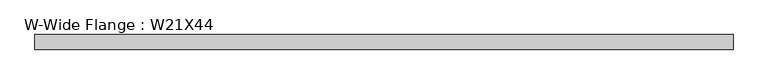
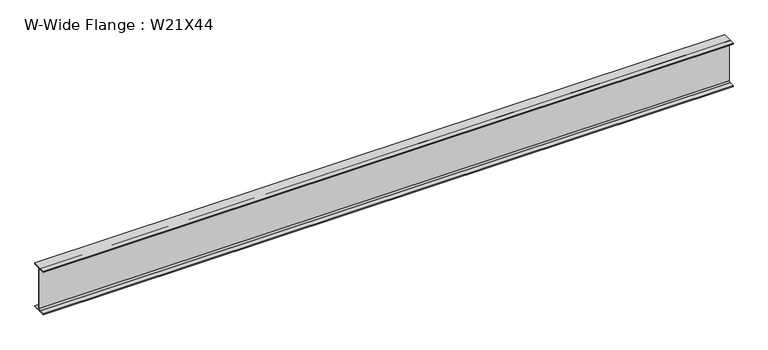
"""IFC4 building model written with IfcOpenShell, lengths in millimetres: beam geometry, W-Wide Flange : W21X44."""

from ifc_helpers import new_model, si_unit, point, frame, frame_2d, origin, place, context, project, spatial, polyline, circle_curve, trimmed, segment, composite_curve, outline, extrude, source, transform, mapped, element, save


def w_wide_flange_w21x44_dd8e647a(model_context):
    return source(origin(), model_context, "Body", "SweptSolid", [
        extrude(outline(composite_curve([segment(polyline([(82.55, -251.46), (82.55, -262.89), (-82.55, -262.89), (-82.55, -251.46), (-21.59, -251.46)]), True, "CONTINUOUS"), segment(trimmed(circle_curve(frame_2d((-21.59, -234.315)), 17.145), [point((-21.59, -251.46))], [point((-4.445, -234.315))], True, "CARTESIAN"), True, "CONTINUOUS"), segment(polyline([(-4.445, -234.315), (-4.445, 234.315)]), True, "CONTINUOUS"), segment(trimmed(circle_curve(frame_2d((-21.59, 234.315)), 17.145), [point((-4.445, 234.315))], [point((-21.59, 251.46))], True, "CARTESIAN"), True, "CONTINUOUS"), segment(polyline([(-21.59, 251.46), (-82.55, 251.46), (-82.55, 262.89), (82.55, 262.89), (82.55, 251.46), (21.59, 251.46)]), True, "CONTINUOUS"), segment(trimmed(circle_curve(frame_2d((21.59, 234.315)), 17.145), [point((21.59, 251.46))], [point((4.445, 234.315))], True, "CARTESIAN"), True, "CONTINUOUS"), segment(polyline([(4.445, 234.315), (4.445, -234.315)]), True, "CONTINUOUS"), segment(trimmed(circle_curve(frame_2d((21.59, -234.315)), 17.145), [point((4.445, -234.315))], [point((21.59, -251.46))], True, "CARTESIAN"), True, "CONTINUOUS"), segment(polyline([(21.59, -251.46), (82.55, -251.46)]), True, "CONTINUOUS")], self_intersect=False)), frame((-3902.8286345, 0.0, 0.0), z_axis=(1.0, 0.0, 0.0), x_axis=(0.0, 1.0, 0.0)), (0.0, 0.0, 1.0), 7866.3605813),
    ])


if __name__ == "__main__":
    model = new_model("IFC4")
    model_context = context("Model", 3, world=origin())
    ifc_project = project(units=[si_unit("LENGTHUNIT", "METRE", prefix="MILLI")], contexts=[model_context])
    site = spatial("IfcSite", under=ifc_project)
    building = spatial("IfcBuilding", under=site)
    placement = place(None, origin())
    w_wide_flange_w21x44_shape = w_wide_flange_w21x44_dd8e647a(model_context)
    element("IfcBeam", 1, ObjectType="W-Wide Flange : W21X44", at=placement, inside=building, context=model_context, shape_type="MappedRepresentation", body=[
        mapped(w_wide_flange_w21x44_shape, transform((0.0, 0.0, 0.0), x_axis=(1.0, 0.0, 0.0), y_axis=(0.0, 1.0, 0.0), z_axis=(0.0, 0.0, 1.0))),
    ])
    save(model, "model.ifc")
